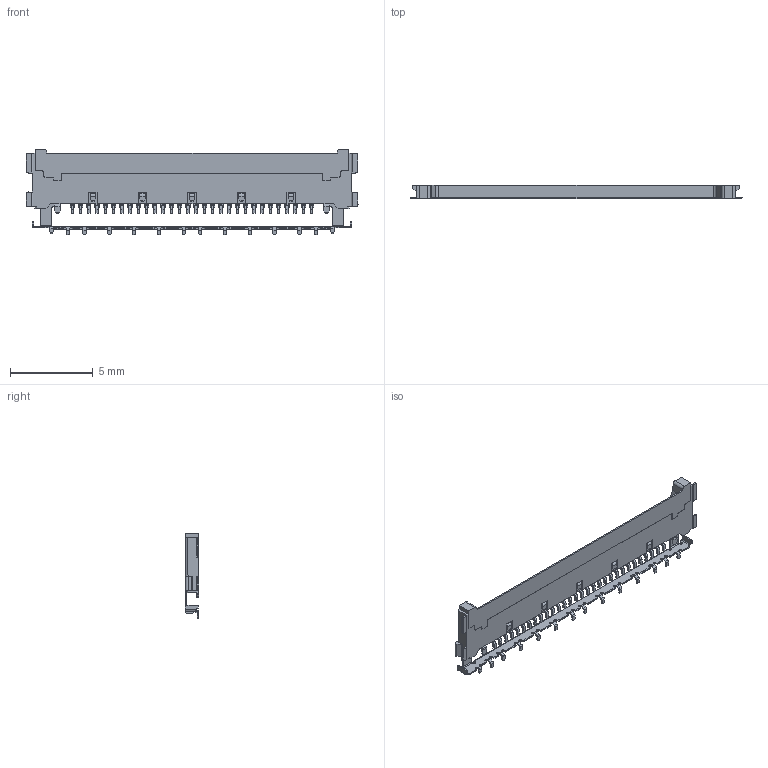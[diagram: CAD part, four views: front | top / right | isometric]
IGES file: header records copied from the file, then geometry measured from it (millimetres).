
Start section: SolidWorks IGES file using analytic representation for surfaces
Global section: file name: C:\3dworks\馬場\CAB-VSII\170821 CAB-VSII 40P作成用\20849-030E-01C RECE ASS'Y IGES R1 Intel.IGS; native system: SolidWorks 2014; preprocessor: SolidWorks 2014; author: ieng2-013; date: 170823.141500; units: millimetre
Bounding box: 20.1 x 0.82 x 5.2 mm (x, y, z)
Surface area: 221.8 mm2 (no closed solid volume)
Topology: 0 solids, 0 shells, 1207 faces, 8736 edges, 8736 vertices
Faces by surface type: bspline 775, revolution 432
